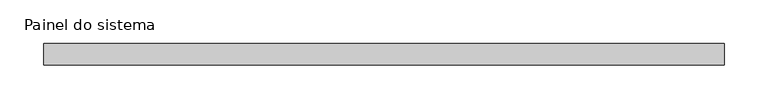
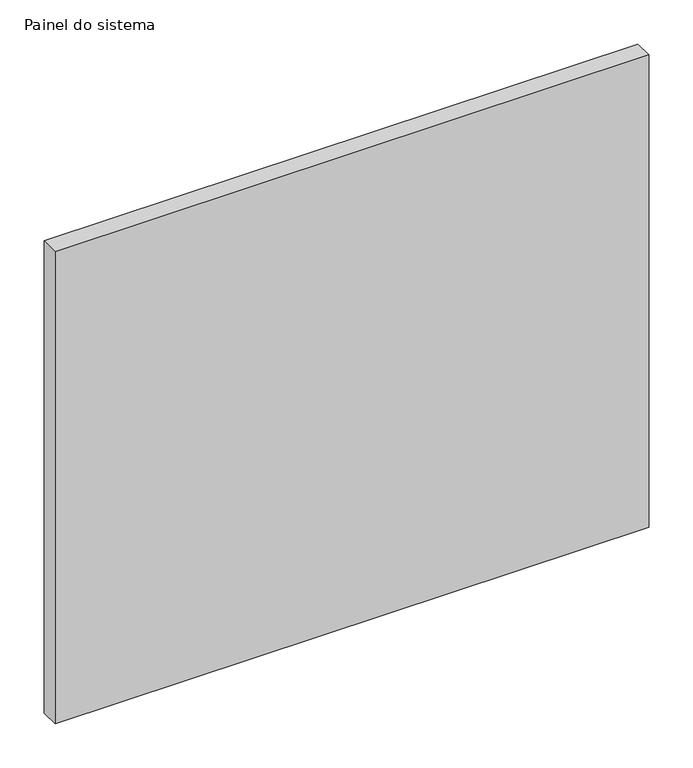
"""IFC4 building model written with IfcOpenShell, lengths in millimetres: plate geometry, Painel do sistema : Envidraçado."""

import ifcopenshell
import ifcopenshell.guid

model = None  # the IFC model being written
_history = None  # IfcOwnerHistory: only IFC2X3 demands one
_inside = {}  # id of a spatial element -> (the spatial element, [elements in it])
_under = {}  # id of a project, library or spatial element -> (it, [spatial elements below it])
_declared = {}  # id of a project -> (the project, [libraries it declares])
_typed = {}  # id of a type object -> (the type object, [elements of that type])
_made_of = {}  # id of a material, layer set ... -> (it, [elements and type objects made of it])


def new_model(schema):
    """Start an empty IFC model of exactly this schema.

    Asked for "IFC4X3", IfcOpenShell would pick the latest addendum, in which some entities
    have other attributes; the version numbers below select the first issue.
    IFC2X3 requires an IfcOwnerHistory on every rooted entity: one is made here for all.
    """
    global model, _history
    if schema == "IFC4X3":
        model = ifcopenshell.file(schema_version=(4, 3, 0, 0))
    else:
        model = ifcopenshell.file(schema=schema)
    _inside.clear()
    _under.clear()
    _declared.clear()
    _typed.clear()
    _made_of.clear()
    _history = None
    if model.schema == "IFC2X3":
        org = make("IfcOrganization", Name="unknown")
        user = make(
            "IfcPersonAndOrganization",
            ThePerson=make("IfcPerson", FamilyName="unknown"),
            TheOrganization=org,
        )
        app = make(
            "IfcApplication",
            ApplicationDeveloper=org,
            Version="unknown",
            ApplicationFullName="unknown",
            ApplicationIdentifier="unknown",
        )
        _history = make(
            "IfcOwnerHistory",
            OwningUser=user,
            OwningApplication=app,
            ChangeAction="ADDED",
            CreationDate=0,
        )
    return model


def make(cls, **values):
    """One entity of the class cls with the attributes given. An attribute that is None is left unset."""
    return model.create_entity(
        cls, **{name: value for name, value in values.items() if value is not None}
    )


def rooted(cls, **values):
    """An entity with a GlobalId (a new one), such as an element, a storey or a relation."""
    return make(cls, GlobalId=ifcopenshell.guid.new(), OwnerHistory=_history, **values)


def si_unit(unit_type, name, prefix=None):
    """IfcSIUnit, for example si_unit("LENGTHUNIT", "METRE", prefix="MILLI")."""
    return make("IfcSIUnit", UnitType=unit_type, Prefix=prefix, Name=name)


def assignment(units):
    """IfcUnitAssignment: the units of a project."""
    return None if units is None else make("IfcUnitAssignment", Units=units)


def point(xyz):
    """IfcCartesianPoint."""
    return None if xyz is None else make("IfcCartesianPoint", Coordinates=xyz)


def direction(xyz):
    """IfcDirection."""
    return None if xyz is None else make("IfcDirection", DirectionRatios=xyz)


def frame(location, z_axis=None, x_axis=None):
    """IfcAxis2Placement3D, a coordinate frame: its origin and axes. An axis left out is left unset."""
    return make(
        "IfcAxis2Placement3D",
        Location=point(location),
        Axis=direction(z_axis),
        RefDirection=direction(x_axis),
    )


def origin():
    """The frame at (0, 0, 0) with its axes left unset."""
    return frame((0.0, 0.0, 0.0))


def origin_with_axes():
    """The frame at (0, 0, 0) with the z axis (0, 0, 1) and the x axis (1, 0, 0) written out."""
    return frame((0.0, 0.0, 0.0), z_axis=(0.0, 0.0, 1.0), x_axis=(1.0, 0.0, 0.0))


def place(relative_to, where):
    """IfcLocalPlacement: puts the frame where relative to a parent placement (None: the world)."""
    return make(
        "IfcLocalPlacement", PlacementRelTo=relative_to, RelativePlacement=where
    )


def context(
    kind, dimensions, precision=None, world=None, true_north=None, identifier=None
):
    """IfcGeometricRepresentationContext, for example the 3D "Model" context."""
    return make(
        "IfcGeometricRepresentationContext",
        ContextIdentifier=identifier,
        ContextType=kind,
        CoordinateSpaceDimension=dimensions,
        Precision=precision,
        WorldCoordinateSystem=world,
        TrueNorth=true_north,
    )


def project(units=None, contexts=None):
    """IfcProject with its units and contexts."""
    return rooted(
        "IfcProject",
        Name="project",
        RepresentationContexts=contexts,
        UnitsInContext=assignment(units),
    )


def spatial(cls, under=None, at=None, **own):
    """A site, building, storey or space (cls), placed at a placement, below another one or the project."""
    s = rooted(cls, ObjectPlacement=at, **own)
    if under is not None:
        _under.setdefault(under.id(), (under, []))[1].append(s)
    return s


def polyline(points):
    """IfcPolyline through the points."""
    return make("IfcPolyline", Points=[point(p) for p in points])


def outline(outer, holes=None, kind="AREA"):
    """IfcArbitraryClosedProfileDef: a profile drawn as a closed curve; with holes, ...WithVoids."""
    if holes is None:
        return make("IfcArbitraryClosedProfileDef", ProfileType=kind, OuterCurve=outer)
    return make(
        "IfcArbitraryProfileDefWithVoids",
        ProfileType=kind,
        OuterCurve=outer,
        InnerCurves=holes,
    )


def extrude(swept, where, along, depth):
    """IfcExtrudedAreaSolid: the profile swept, set in the frame where, extruded along a direction by depth."""
    return make(
        "IfcExtrudedAreaSolid",
        SweptArea=swept,
        Position=where,
        ExtrudedDirection=direction(along),
        Depth=depth,
    )


def shape(context_of_items, identifier, shape_type, items):
    """IfcShapeRepresentation: the items that make up one representation, for example the "Body"."""
    return make(
        "IfcShapeRepresentation",
        ContextOfItems=context_of_items,
        RepresentationIdentifier=identifier,
        RepresentationType=shape_type,
        Items=items,
    )


def source(mapping_origin, context_of_items, identifier, shape_type, items):
    """IfcRepresentationMap: a shape defined once, which mapped items show again and again."""
    return make(
        "IfcRepresentationMap",
        MappingOrigin=mapping_origin,
        MappedRepresentation=shape(context_of_items, identifier, shape_type, items),
    )


def transform(
    local_origin,
    x_axis=None,
    y_axis=None,
    z_axis=None,
    scale=None,
    scale2=None,
    scale3=None,
    uniform=True,
):
    """IfcCartesianTransformationOperator3D, or its non-uniform kind. x_axis, y_axis, z_axis: its Axis1, 2, 3."""
    if uniform:
        return make(
            "IfcCartesianTransformationOperator3D",
            Axis1=direction(x_axis),
            Axis2=direction(y_axis),
            LocalOrigin=point(local_origin),
            Scale=scale,
            Axis3=direction(z_axis),
        )
    return make(
        "IfcCartesianTransformationOperator3DnonUniform",
        Axis1=direction(x_axis),
        Axis2=direction(y_axis),
        LocalOrigin=point(local_origin),
        Scale=scale,
        Axis3=direction(z_axis),
        Scale2=scale2,
        Scale3=scale3,
    )


def mapped(mapping_source, mapping_target):
    """IfcMappedItem: shows the shape of a source again, moved by a transform."""
    return make(
        "IfcMappedItem", MappingSource=mapping_source, MappingTarget=mapping_target
    )


def made_of(thing, what):
    """Note that an element or type object is made of a material, layer set ...; save() writes the relation."""
    if what is not None:
        _made_of.setdefault(what.id(), (what, []))[1].append(thing)
    return thing


def element(
    cls,
    number,
    at=None,
    inside=None,
    cuts=None,
    type_object=None,
    material=None,
    context=None,
    identifier="Body",
    shape_type=None,
    held_by="IfcProductDefinitionShape",
    body=None,
    shapes=None,
    **own,
):
    """One element of the class cls, such as IfcWall. Its Tag is "e" and its number.

    at: its placement. inside: the storey or other place that contains it. cuts: it is an
    opening in that element (IfcRelVoidsElement). A single representation is given by context,
    identifier, shape_type and body (its items); several are given by shapes. held_by: the class
    of the entity that holds the representations. save() writes the other relations.
    """
    e = rooted(cls, Tag="e%d" % number, ObjectPlacement=at, **own)
    if body is not None:
        shapes = [shape(context, identifier, shape_type, body)]
    if shapes is not None:
        e.Representation = make(held_by, Representations=shapes)
    if inside is not None:
        _inside.setdefault(inside.id(), (inside, []))[1].append(e)
    if cuts is not None:
        rooted(
            "IfcRelVoidsElement", RelatingBuildingElement=cuts, RelatedOpeningElement=e
        )
    if type_object is not None:
        _typed.setdefault(type_object.id(), (type_object, []))[1].append(e)
    return made_of(e, material)


def aggregate(whole, parts):
    """IfcRelAggregates: a whole, such as a stair, and the parts it consists of."""
    return rooted("IfcRelAggregates", RelatingObject=whole, RelatedObjects=parts)


def save(model, path):
    """Write the relations noted so far, then the file.

    IfcRelAggregates (storeys below a building ...), IfcRelContainedInSpatialStructure (elements
    in a storey), IfcRelDefinesByType, IfcRelAssociatesMaterial and IfcRelDeclares: one each for
    every whole, place, type object, material and project.
    """
    for whole, parts in _under.values():
        aggregate(whole, parts)
    for where, things in _inside.values():
        rooted(
            "IfcRelContainedInSpatialStructure",
            RelatedElements=things,
            RelatingStructure=where,
        )
    for kind, things in _typed.values():
        rooted("IfcRelDefinesByType", RelatedObjects=things, RelatingType=kind)
    for what, things in _made_of.values():
        rooted("IfcRelAssociatesMaterial", RelatedObjects=things, RelatingMaterial=what)
    for by, libraries in _declared.values():
        rooted("IfcRelDeclares", RelatingContext=by, RelatedDefinitions=libraries)
    model.write(path)


def painel_do_sistema_36d1dd3f(model_context):
    return source(origin(), model_context, "Body", "SweptSolid", [
        extrude(outline(polyline([(390.0, 24.5), (-390.0, 24.5), (-390.0, 49.5), (390.0, 49.5), (390.0, 24.5)])), origin_with_axes(), (0.0, 0.0, 1.0), 655.0),
    ])


if __name__ == "__main__":
    model = new_model("IFC4")
    model_context = context("Model", 3, world=origin())
    ifc_project = project(units=[si_unit("LENGTHUNIT", "METRE", prefix="MILLI")], contexts=[model_context])
    site = spatial("IfcSite", under=ifc_project)
    building = spatial("IfcBuilding", under=site)
    placement = place(None, origin())
    painel_do_sistema_shape = painel_do_sistema_36d1dd3f(model_context)
    element("IfcPlate", 1, ObjectType="Painel do sistema : Envidraçado", at=placement, inside=building, context=model_context, shape_type="MappedRepresentation", body=[
        mapped(painel_do_sistema_shape, transform((0.0, 0.0, 0.0), x_axis=(1.0, 0.0, 0.0), y_axis=(0.0, 1.0, 0.0), z_axis=(0.0, 0.0, 1.0))),
    ])
    save(model, "model.ifc")
